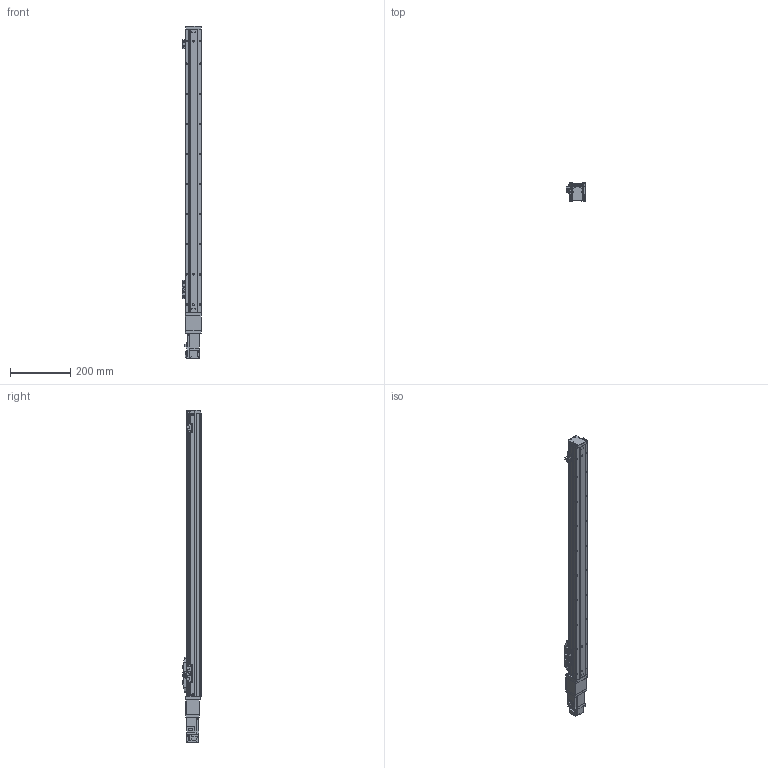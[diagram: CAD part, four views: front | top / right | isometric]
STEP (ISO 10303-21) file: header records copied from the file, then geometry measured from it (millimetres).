
FILE_DESCRIPTION (( 'STEP AP203' ), '1' );
FILE_NAME ('GTH5-800-BC-M10-C4.step', '2022-09-23T00:41:16', ( '微软用户' ), ( '微软中国' ), 'SwSTEP 2.0', 'SolidWorks 2020', '' );
FILE_SCHEMA (( 'CONFIG_CONTROL_DESIGN' ));
Length unit declared in the file: millimetre
Products named in the file (20): GBT96.1-2002 3×0.8; CTHA60-006-2_CTHA60-006-1; GTH50-001_800; GTH50-024; HG-KR13; GBT 70.1-M4×16; GBT 70.1-M2.5×6; GTH5-800-BC-M10-C4; GTH50-003; GTH50-028; GTH50-006; GTH50-013; GTH50-022-1; GTH50-004; GTH50-023; CTHA60-027; GBT 70.3-M3℅6; GBT 70.1-M3℅6; CTHA60-013; BTH-M3X5X6
Assembly tree (60 placements, depth 2):
  GTH5-800-BC-M10-C4
    GTH50-006
    GTH50-004
    GBT 70.3-M3℅6  x6
    BTH-M3X5X6  x8
    GTH50-001_800
    GBT 70.1-M4×16  x8
    GTH50-003
    GTH50-013
    GTH50-023  x3
    GBT 70.1-M3℅6  x12
    GBT96.1-2002 3×0.8  x6
    GTH50-024  x3
    GBT 70.1-M2.5×6  x2
    GTH50-028  x2
    GTH50-022-1
    CTHA60-027
    CTHA60-013
    CTHA60-006-2_CTHA60-006-1
    HG-KR13
Bounding box: 63.8 x 60 x 1102.6 mm (x, y, z)
Volume: 2282581.1 mm3; surface area: 345428.1 mm2
Topology: 62 solids, 62 shells, 2061 faces, 4740 edges, 2894 vertices
Faces by surface type: plane 1105, cylinder 555, cone 235, torus 158, sphere 8
Entity records: 34551 total; most frequent: DIRECTION 5591, CARTESIAN_POINT 5463, ORIENTED_EDGE 5166, EDGE_CURVE 2583, AXIS2_PLACEMENT_3D 1928, LINE 1735, VECTOR 1735, VERTEX_POINT 1634
